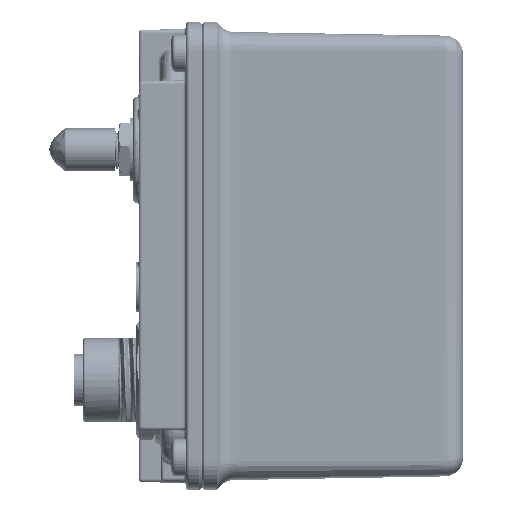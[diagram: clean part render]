
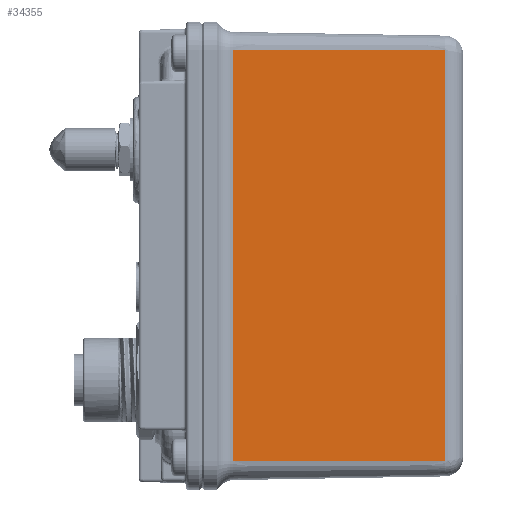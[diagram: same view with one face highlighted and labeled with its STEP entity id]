
A CAD part, top view. The second image highlights one B-rep face of the part: STEP entity #34355.
In plain terms, the highlighted planar face has unit normal (0.018, 0, 1).
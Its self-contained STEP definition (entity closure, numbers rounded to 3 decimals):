
#3777=FACE_OUTER_BOUND('',#5845,.T.);
#5845=EDGE_LOOP('',(#23841,#23842,#23843,#23844));
#7479=LINE('',#49321,#8992);
#8060=LINE('',#52238,#9573);
#8068=LINE('',#52284,#9581);
#8069=LINE('',#52293,#9582);
#8992=VECTOR('',#39848,10.);
#9573=VECTOR('',#42887,3.);
#9581=VECTOR('',#42939,10.);
#9582=VECTOR('',#42942,10.);
#12715=VERTEX_POINT('',#49270);
#12716=VERTEX_POINT('',#49320);
#13628=VERTEX_POINT('',#52232);
#13630=VERTEX_POINT('',#52236);
#15911=EDGE_CURVE('',#12715,#12716,#7479,.T.);
#17281=EDGE_CURVE('',#13630,#13628,#8060,.T.);
#17302=EDGE_CURVE('',#13628,#12715,#8068,.T.);
#17304=EDGE_CURVE('',#13630,#12716,#8069,.T.);
#23841=ORIENTED_EDGE('',*,*,#17281,.F.);
#23842=ORIENTED_EDGE('',*,*,#17304,.T.);
#23843=ORIENTED_EDGE('',*,*,#15911,.F.);
#23844=ORIENTED_EDGE('',*,*,#17302,.F.);
#31557=PLANE('',#37224);
#34355=ADVANCED_FACE('',(#3777),#31557,.T.);
#37224=AXIS2_PLACEMENT_3D('',#52292,#42940,#42941);
#39848=DIRECTION('',(0.,-1.,0.));
#42887=DIRECTION('',(0.,1.,0.));
#42939=DIRECTION('',(1.,0.,-0.017));
#42940=DIRECTION('center_axis',(0.017,0.,1.));
#42941=DIRECTION('ref_axis',(0.,-1.,0.));
#42942=DIRECTION('',(1.,0.,-0.017));
#49270=CARTESIAN_POINT('',(16.552,33.,42.818));
#49320=CARTESIAN_POINT('',(16.552,-33.,42.818));
#49321=CARTESIAN_POINT('',(16.552,-16.5,42.818));
#52232=CARTESIAN_POINT('',(-17.405,33.,43.411));
#52236=CARTESIAN_POINT('',(-17.405,-33.,43.411));
#52238=CARTESIAN_POINT('',(-17.405,33.,43.411));
#52284=CARTESIAN_POINT('',(-22.5,33.,43.5));
#52292=CARTESIAN_POINT('Origin',(-22.5,-33.,43.5));
#52293=CARTESIAN_POINT('',(-22.5,-33.,43.5));
